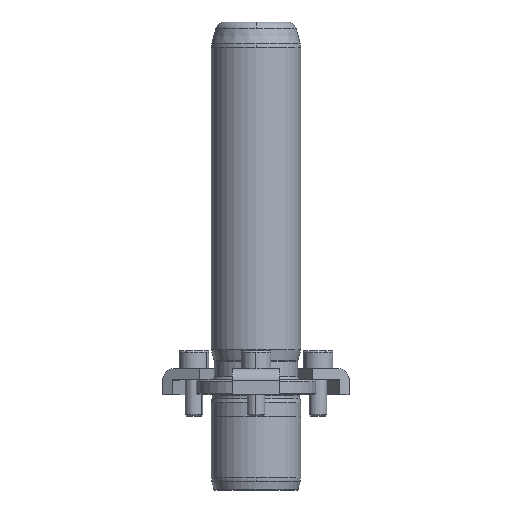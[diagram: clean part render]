
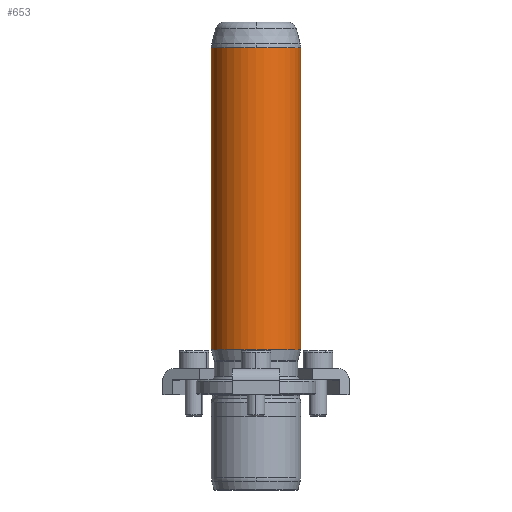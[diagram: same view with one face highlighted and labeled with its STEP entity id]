
A CAD part, front view. The second image highlights one B-rep face of the part: STEP entity #653.
In plain terms, the highlighted cylindrical face has radius 15 mm (diameter 30 mm), a partial arc.
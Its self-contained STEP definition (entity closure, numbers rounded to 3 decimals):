
#566=CARTESIAN_POINT('',(0.0,-15.,116.342));
#567=VERTEX_POINT('',#566);
#594=CARTESIAN_POINT('',(-15.0,0.,116.342));
#595=VERTEX_POINT('',#594);
#603=CARTESIAN_POINT('',(0.0,0.,116.342));
#604=DIRECTION('',(0.0,0.0,1.0));
#605=DIRECTION('',(1.0,0.0,0.0));
#606=AXIS2_PLACEMENT_3D('',#603,#604,#605);
#607=CIRCLE('',#606,15.0);
#608=EDGE_CURVE('',#595,#567,#607,.T.);
#613=CARTESIAN_POINT('',(0.0,0.,65.671));
#614=DIRECTION('',(0.0,0.,1.0));
#615=DIRECTION('',(1.0,0.0,0.0));
#616=AXIS2_PLACEMENT_3D('',#613,#614,#615);
#617=CYLINDRICAL_SURFACE('',#616,15.0);
#618=CARTESIAN_POINT('',(15.0,0.,116.342));
#619=VERTEX_POINT('',#618);
#620=CARTESIAN_POINT('',(15.0,0.,15.0));
#621=VERTEX_POINT('',#620);
#622=CARTESIAN_POINT('',(15.0,0.,116.342));
#623=DIRECTION('',(0.0,0.0,-1.0));
#624=VECTOR('',#623,101.342);
#625=LINE('',#622,#624);
#626=EDGE_CURVE('',#619,#621,#625,.T.);
#627=ORIENTED_EDGE('',*,*,#626,.F.);
#628=CARTESIAN_POINT('',(0.0,0.,116.342));
#629=DIRECTION('',(0.0,0.0,1.0));
#630=DIRECTION('',(1.0,0.0,0.0));
#631=AXIS2_PLACEMENT_3D('',#628,#629,#630);
#632=CIRCLE('',#631,15.0);
#633=EDGE_CURVE('',#567,#619,#632,.T.);
#634=ORIENTED_EDGE('',*,*,#633,.F.);
#635=ORIENTED_EDGE('',*,*,#608,.F.);
#636=CARTESIAN_POINT('',(-15.0,0.,15.0));
#637=VERTEX_POINT('',#636);
#638=CARTESIAN_POINT('',(-15.0,0.,116.342));
#639=DIRECTION('',(0.0,0.0,-1.0));
#640=VECTOR('',#639,101.342);
#641=LINE('',#638,#640);
#642=EDGE_CURVE('',#595,#637,#641,.T.);
#643=ORIENTED_EDGE('',*,*,#642,.T.);
#644=CARTESIAN_POINT('',(0.0,0.,15.0));
#645=DIRECTION('',(0.0,0.0,1.0));
#646=DIRECTION('',(1.0,0.0,0.0));
#647=AXIS2_PLACEMENT_3D('',#644,#645,#646);
#648=CIRCLE('',#647,15.0);
#649=EDGE_CURVE('',#637,#621,#648,.T.);
#650=ORIENTED_EDGE('',*,*,#649,.T.);
#651=EDGE_LOOP('',(#627,#634,#635,#643,#650));
#652=FACE_OUTER_BOUND('',#651,.T.);
#653=ADVANCED_FACE('',(#652),#617,.T.);
